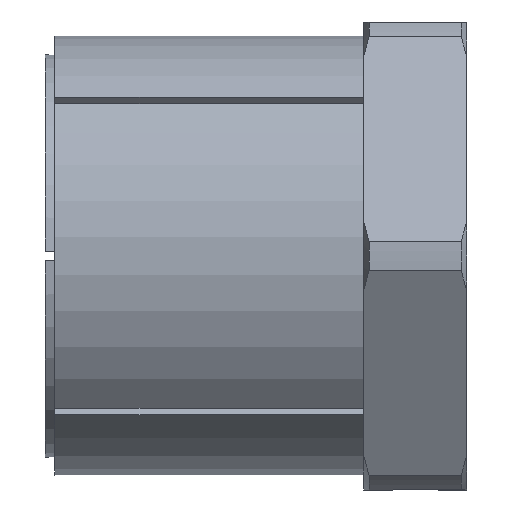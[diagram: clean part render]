
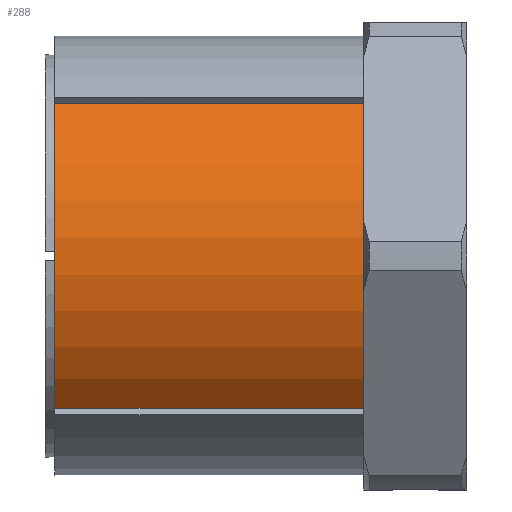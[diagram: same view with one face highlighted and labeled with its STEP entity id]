
A CAD part, front view. The second image highlights one B-rep face of the part: STEP entity #288.
In plain terms, the highlighted cylindrical face has radius 23.5 mm (diameter 47 mm), a partial arc.
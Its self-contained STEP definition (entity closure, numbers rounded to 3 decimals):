
#288 = ADVANCED_FACE ( 'NONE', ( #707 ), #722, .T. ) ;
#426 = ORIENTED_EDGE ( 'NONE', *, *, #1231, .T. ) ;
#427 = ORIENTED_EDGE ( 'NONE', *, *, #1221, .F. ) ;
#428 = ORIENTED_EDGE ( 'NONE', *, *, #1232, .T. ) ;
#429 = ORIENTED_EDGE ( 'NONE', *, *, #1233, .T. ) ;
#495 = EDGE_LOOP ( 'NONE', ( #428, #426, #427, #429 ) ) ;
#707 = FACE_OUTER_BOUND ( 'NONE', #495, .T. ) ;
#722 = CYLINDRICAL_SURFACE ( 'NONE', #1134, 23.5 ) ;
#877 = CIRCLE ( 'NONE', #1050, 23.5 ) ;
#883 = VECTOR ( 'NONE', #1671, 1000. ) ;
#884 = VECTOR ( 'NONE', #1665, 1000. ) ;
#886 = LINE ( 'NONE', #1666, #884 ) ;
#888 = LINE ( 'NONE', #1684, #883 ) ;
#892 = CIRCLE ( 'NONE', #1044, 23.5 ) ;
#1044 = AXIS2_PLACEMENT_3D ( 'NONE', #1670, #1668, #1667 ) ;
#1050 = AXIS2_PLACEMENT_3D ( 'NONE', #1719, #1710, #1709 ) ;
#1134 = AXIS2_PLACEMENT_3D ( 'NONE', #2143, #2166, #2155 ) ;
#1221 = EDGE_CURVE ( 'NONE', #2588, #2600, #877, .T. ) ;
#1231 = EDGE_CURVE ( 'NONE', #2577, #2600, #888, .T. ) ;
#1232 = EDGE_CURVE ( 'NONE', #2586, #2577, #892, .T. ) ;
#1233 = EDGE_CURVE ( 'NONE', #2588, #2586, #886, .T. ) ;
#1480 = CARTESIAN_POINT ( 'NONE',  ( 0., -16.967, 16.26 ) ) ;
#1497 = CARTESIAN_POINT ( 'NONE',  ( 0., -16.967, -16.26 ) ) ;
#1499 = CARTESIAN_POINT ( 'NONE',  ( 33., -16.967, -16.26 ) ) ;
#1508 = CARTESIAN_POINT ( 'NONE',  ( 33., -16.967, 16.26 ) ) ;
#1665 = DIRECTION ( 'NONE',  ( 1., 0., 0. ) ) ;
#1666 = CARTESIAN_POINT ( 'NONE',  ( 0., -16.967, -16.26 ) ) ;
#1667 = DIRECTION ( 'NONE',  ( 0., 0., 1. ) ) ;
#1668 = DIRECTION ( 'NONE',  ( -1., 0., 0. ) ) ;
#1670 = CARTESIAN_POINT ( 'NONE',  ( 33., 0., 0. ) ) ;
#1671 = DIRECTION ( 'NONE',  ( -1., 0., 0. ) ) ;
#1684 = CARTESIAN_POINT ( 'NONE',  ( 0., -16.967, 16.26 ) ) ;
#1709 = DIRECTION ( 'NONE',  ( 0., 0., 1. ) ) ;
#1710 = DIRECTION ( 'NONE',  ( -1., 0., 0. ) ) ;
#1719 = CARTESIAN_POINT ( 'NONE',  ( 0., 0., 0. ) ) ;
#2143 = CARTESIAN_POINT ( 'NONE',  ( 0., 0., 0. ) ) ;
#2155 = DIRECTION ( 'NONE',  ( 0., 0., 1. ) ) ;
#2166 = DIRECTION ( 'NONE',  ( -1., 0., 0. ) ) ;
#2577 = VERTEX_POINT ( 'NONE', #1508 ) ;
#2586 = VERTEX_POINT ( 'NONE', #1499 ) ;
#2588 = VERTEX_POINT ( 'NONE', #1497 ) ;
#2600 = VERTEX_POINT ( 'NONE', #1480 ) ;
